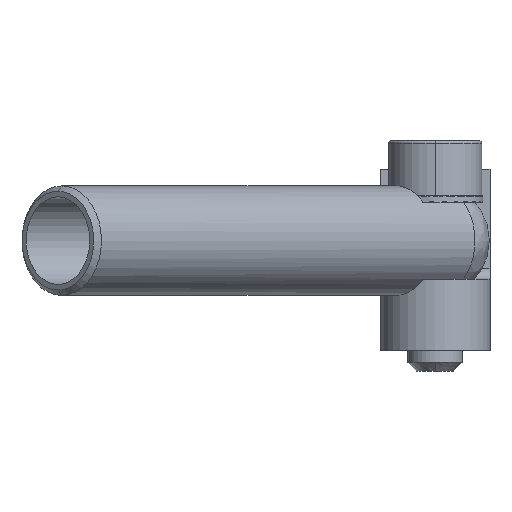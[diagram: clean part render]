
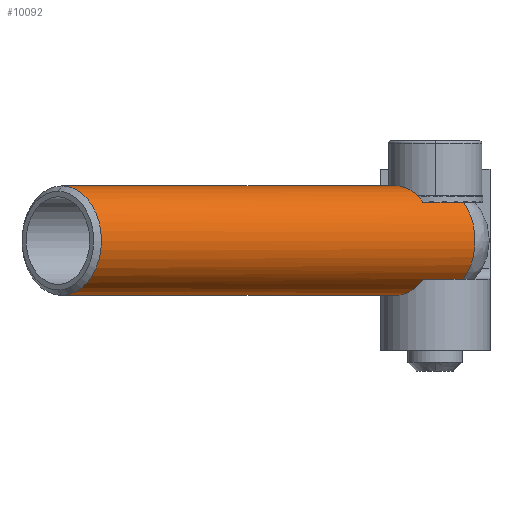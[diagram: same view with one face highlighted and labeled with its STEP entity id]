
A CAD part, front view. The second image highlights one B-rep face of the part: STEP entity #10092.
In plain terms, the highlighted cylindrical face has radius 5 mm (diameter 10 mm), a partial arc.
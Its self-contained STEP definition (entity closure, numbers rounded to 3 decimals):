
#113 = EDGE_CURVE ( 'NONE', #7824, #976, #6798, .T. ) ;
#271 = EDGE_CURVE ( 'NONE', #1066, #4177, #6648, .T. ) ;
#634 = DIRECTION ( 'NONE',  ( 0.689, 0.725, 0. ) ) ;
#704 = CARTESIAN_POINT ( 'NONE',  ( -8.876, -0.129, -5.055 ) ) ;
#748 = VECTOR ( 'NONE', #5515, 1000. ) ;
#760 = ORIENTED_EDGE ( 'NONE', *, *, #5250, .F. ) ;
#976 = VERTEX_POINT ( 'NONE', #1939 ) ;
#1066 = VERTEX_POINT ( 'NONE', #2888 ) ;
#1508 = ORIENTED_EDGE ( 'NONE', *, *, #5771, .F. ) ;
#1562 = AXIS2_PLACEMENT_3D ( 'NONE', #11225, #9687, #11051 ) ;
#1698 = EDGE_CURVE ( 'NONE', #4950, #7254, #8302, .T. ) ;
#1782 = VERTEX_POINT ( 'NONE', #2514 ) ;
#1939 = CARTESIAN_POINT ( 'NONE',  ( 9.21, 16.828, -1.555 ) ) ;
#2021 = AXIS2_PLACEMENT_3D ( 'NONE', #3673, #10291, #8423 ) ;
#2486 = DIRECTION ( 'NONE',  ( 0., 0., 1. ) ) ;
#2509 = VECTOR ( 'NONE', #3466, 1000. ) ;
#2511 = DIRECTION ( 'NONE',  ( 0.689, 0.725, 0. ) ) ;
#2514 = CARTESIAN_POINT ( 'NONE',  ( 4.523, 13.97, 1.945 ) ) ;
#2562 = ORIENTED_EDGE ( 'NONE', *, *, #271, .T. ) ;
#2888 = CARTESIAN_POINT ( 'NONE',  ( -28.513, -15.61, 3.445 ) ) ;
#2969 = CARTESIAN_POINT ( 'NONE',  ( -8.876, -0.129, 1.945 ) ) ;
#3091 = DIRECTION ( 'NONE',  ( 0.689, 0.725, 0. ) ) ;
#3268 = CARTESIAN_POINT ( 'NONE',  ( 8.174, 17.812, 1.945 ) ) ;
#3466 = DIRECTION ( 'NONE',  ( 0.689, 0.725, 0. ) ) ;
#3490 = CARTESIAN_POINT ( 'NONE',  ( -28.513, -15.61, -6.555 ) ) ;
#3531 = CARTESIAN_POINT ( 'NONE',  ( 5.585, 20.272, -1.555 ) ) ;
#3626 = DIRECTION ( 'NONE',  ( 0., 0., 1. ) ) ;
#3655 = ORIENTED_EDGE ( 'NONE', *, *, #113, .F. ) ;
#3673 = CARTESIAN_POINT ( 'NONE',  ( -28.513, -15.61, -1.555 ) ) ;
#3676 = CARTESIAN_POINT ( 'NONE',  ( 4.523, 13.97, -5.055 ) ) ;
#3687 = ORIENTED_EDGE ( 'NONE', *, *, #10999, .T. ) ;
#3906 = DIRECTION ( 'NONE',  ( 0.689, 0.725, 0. ) ) ;
#3939 = DIRECTION ( 'NONE',  ( 0.689, 0.725, 0. ) ) ;
#3993 = CARTESIAN_POINT ( 'NONE',  ( -28.513, -15.61, 3.445 ) ) ;
#4092 = VERTEX_POINT ( 'NONE', #9226 ) ;
#4177 = VERTEX_POINT ( 'NONE', #3490 ) ;
#4342 = CIRCLE ( 'NONE', #1562, 5. ) ;
#4388 = ORIENTED_EDGE ( 'NONE', *, *, #12265, .F. ) ;
#4500 = DIRECTION ( 'NONE',  ( 0., 0., 1. ) ) ;
#4507 = CARTESIAN_POINT ( 'NONE',  ( -28.513, -15.61, -1.555 ) ) ;
#4711 = ORIENTED_EDGE ( 'NONE', *, *, #5354, .F. ) ;
#4909 = VECTOR ( 'NONE', #3939, 1000. ) ;
#4950 = VERTEX_POINT ( 'NONE', #11801 ) ;
#5056 = LINE ( 'NONE', #3993, #2509 ) ;
#5104 = FACE_OUTER_BOUND ( 'NONE', #10463, .T. ) ;
#5250 = EDGE_CURVE ( 'NONE', #1782, #7824, #6715, .T. ) ;
#5354 = EDGE_CURVE ( 'NONE', #7254, #4092, #4342, .T. ) ;
#5385 = VERTEX_POINT ( 'NONE', #8881 ) ;
#5487 = AXIS2_PLACEMENT_3D ( 'NONE', #9571, #3906, #10531 ) ;
#5515 = DIRECTION ( 'NONE',  ( -0.689, -0.725, 0. ) ) ;
#5771 = EDGE_CURVE ( 'NONE', #1066, #5385, #5056, .T. ) ;
#6177 = AXIS2_PLACEMENT_3D ( 'NONE', #4507, #634, #3626 ) ;
#6420 = CYLINDRICAL_SURFACE ( 'NONE', #2021, 5. ) ;
#6648 = CIRCLE ( 'NONE', #6177, 5. ) ;
#6715 = LINE ( 'NONE', #2969, #11453 ) ;
#6798 = CIRCLE ( 'NONE', #8319, 5. ) ;
#6940 = CIRCLE ( 'NONE', #8529, 5. ) ;
#7254 = VERTEX_POINT ( 'NONE', #3676 ) ;
#7414 = LINE ( 'NONE', #11426, #4909 ) ;
#7824 = VERTEX_POINT ( 'NONE', #3268 ) ;
#7992 = ORIENTED_EDGE ( 'NONE', *, *, #1698, .F. ) ;
#8302 = LINE ( 'NONE', #704, #748 ) ;
#8319 = AXIS2_PLACEMENT_3D ( 'NONE', #11922, #3091, #2486 ) ;
#8423 = DIRECTION ( 'NONE',  ( 0., 0., 1. ) ) ;
#8529 = AXIS2_PLACEMENT_3D ( 'NONE', #3531, #10153, #4500 ) ;
#8680 = CIRCLE ( 'NONE', #5487, 5. ) ;
#8881 = CARTESIAN_POINT ( 'NONE',  ( 1.934, 16.43, 3.445 ) ) ;
#9205 = EDGE_CURVE ( 'NONE', #5385, #1782, #8680, .T. ) ;
#9226 = CARTESIAN_POINT ( 'NONE',  ( 1.934, 16.43, -6.555 ) ) ;
#9571 = CARTESIAN_POINT ( 'NONE',  ( 1.934, 16.43, -1.555 ) ) ;
#9687 = DIRECTION ( 'NONE',  ( 0.689, 0.725, 0. ) ) ;
#10092 = ADVANCED_FACE ( 'NONE', ( #5104 ), #6420, .T. ) ;
#10153 = DIRECTION ( 'NONE',  ( 0.689, 0.725, 0. ) ) ;
#10291 = DIRECTION ( 'NONE',  ( 0.689, 0.725, 0. ) ) ;
#10458 = ORIENTED_EDGE ( 'NONE', *, *, #9205, .F. ) ;
#10463 = EDGE_LOOP ( 'NONE', ( #2562, #3687, #4711, #7992, #4388, #3655, #760, #10458, #1508 ) ) ;
#10531 = DIRECTION ( 'NONE',  ( 0., 0., 1. ) ) ;
#10999 = EDGE_CURVE ( 'NONE', #4177, #4092, #7414, .T. ) ;
#11051 = DIRECTION ( 'NONE',  ( 0., 0., 1. ) ) ;
#11225 = CARTESIAN_POINT ( 'NONE',  ( 1.934, 16.43, -1.555 ) ) ;
#11426 = CARTESIAN_POINT ( 'NONE',  ( -28.513, -15.61, -6.555 ) ) ;
#11453 = VECTOR ( 'NONE', #2511, 1000. ) ;
#11801 = CARTESIAN_POINT ( 'NONE',  ( 8.174, 17.812, -5.055 ) ) ;
#11922 = CARTESIAN_POINT ( 'NONE',  ( 5.585, 20.272, -1.555 ) ) ;
#12265 = EDGE_CURVE ( 'NONE', #976, #4950, #6940, .T. ) ;
